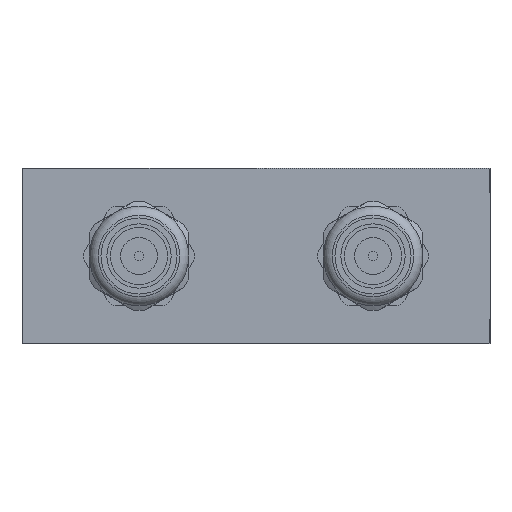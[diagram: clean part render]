
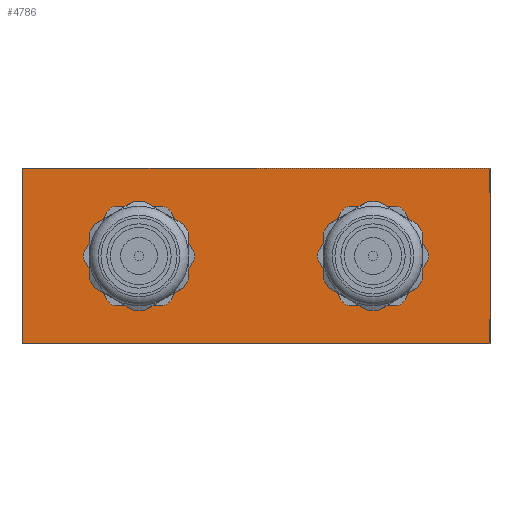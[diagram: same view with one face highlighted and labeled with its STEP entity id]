
A CAD part, front view. The second image highlights one B-rep face of the part: STEP entity #4786.
In plain terms, the highlighted planar face has unit normal (0, -1, 0).
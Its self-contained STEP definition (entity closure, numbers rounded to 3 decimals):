
#143=LINE('',#7795,#363);
#144=LINE('',#7797,#364);
#145=LINE('',#7799,#365);
#146=LINE('',#7800,#366);
#363=VECTOR('',#6191,10.);
#364=VECTOR('',#6192,10.);
#365=VECTOR('',#6193,10.);
#366=VECTOR('',#6194,10.);
#797=PLANE('',#5232);
#937=FACE_BOUND('',#1500,.T.);
#938=FACE_BOUND('',#1501,.T.);
#1151=FACE_OUTER_BOUND('',#1499,.T.);
#1499=EDGE_LOOP('',(#3627,#3628,#3629,#3630));
#1500=EDGE_LOOP('',(#3631));
#1501=EDGE_LOOP('',(#3632));
#1782=CIRCLE('',#5118,8.6);
#1826=CIRCLE('',#5233,8.6);
#2054=VERTEX_POINT('',#7378);
#2164=VERTEX_POINT('',#7793);
#2165=VERTEX_POINT('',#7794);
#2166=VERTEX_POINT('',#7796);
#2167=VERTEX_POINT('',#7798);
#2168=VERTEX_POINT('',#7801);
#2530=EDGE_CURVE('',#2054,#2054,#1782,.T.);
#2694=EDGE_CURVE('',#2164,#2165,#143,.T.);
#2695=EDGE_CURVE('',#2166,#2164,#144,.T.);
#2696=EDGE_CURVE('',#2167,#2166,#145,.T.);
#2697=EDGE_CURVE('',#2165,#2167,#146,.T.);
#2698=EDGE_CURVE('',#2168,#2168,#1826,.T.);
#3627=ORIENTED_EDGE('',*,*,#2694,.F.);
#3628=ORIENTED_EDGE('',*,*,#2695,.F.);
#3629=ORIENTED_EDGE('',*,*,#2696,.F.);
#3630=ORIENTED_EDGE('',*,*,#2697,.F.);
#3631=ORIENTED_EDGE('',*,*,#2698,.T.);
#3632=ORIENTED_EDGE('',*,*,#2530,.T.);
#4786=ADVANCED_FACE('',(#1151,#937,#938),#797,.T.);
#5118=AXIS2_PLACEMENT_3D('',#7379,#5879,#5880);
#5232=AXIS2_PLACEMENT_3D('',#7792,#6189,#6190);
#5233=AXIS2_PLACEMENT_3D('',#7802,#6195,#6196);
#5879=DIRECTION('center_axis',(0.,1.,0.));
#5880=DIRECTION('ref_axis',(0.,0.,-1.));
#6189=DIRECTION('center_axis',(0.,-1.,0.));
#6190=DIRECTION('ref_axis',(1.,0.,0.));
#6191=DIRECTION('',(0.,0.,1.));
#6192=DIRECTION('',(-1.,0.,0.));
#6193=DIRECTION('',(0.,0.,-1.));
#6194=DIRECTION('',(1.,0.,0.));
#6195=DIRECTION('center_axis',(0.,1.,0.));
#6196=DIRECTION('ref_axis',(0.,0.,-1.));
#7378=CARTESIAN_POINT('',(20.,-7.5,23.6));
#7379=CARTESIAN_POINT('Origin',(20.,-7.5,15.));
#7792=CARTESIAN_POINT('Origin',(40.,-7.5,15.));
#7793=CARTESIAN_POINT('',(0.,-7.5,0.));
#7794=CARTESIAN_POINT('',(0.,-7.5,30.));
#7795=CARTESIAN_POINT('',(0.,-7.5,30.));
#7796=CARTESIAN_POINT('',(80.,-7.5,0.));
#7797=CARTESIAN_POINT('',(0.,-7.5,0.));
#7798=CARTESIAN_POINT('',(80.,-7.5,30.));
#7799=CARTESIAN_POINT('',(80.,-7.5,0.));
#7800=CARTESIAN_POINT('',(80.,-7.5,30.));
#7801=CARTESIAN_POINT('',(60.,-7.5,23.6));
#7802=CARTESIAN_POINT('Origin',(60.,-7.5,15.));
